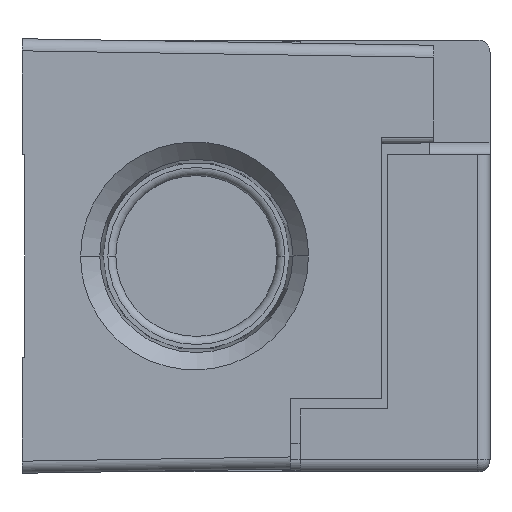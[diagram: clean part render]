
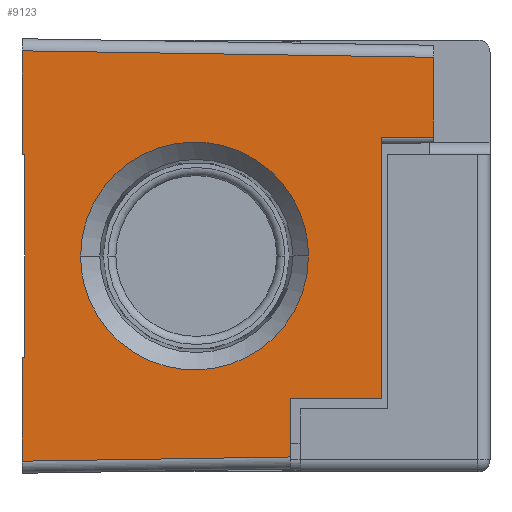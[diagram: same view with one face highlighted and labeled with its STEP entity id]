
A CAD part, front view. The second image highlights one B-rep face of the part: STEP entity #9123.
In plain terms, the highlighted planar face has unit normal (0.016, -1, 0).
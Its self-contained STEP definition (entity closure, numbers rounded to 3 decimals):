
#1598=CARTESIAN_POINT('',(4.089,-80.983,-19.032));
#1608=DIRECTION('',(0.,0.,1.));
#1609=VECTOR('',#1608,5.57);
#1610=CARTESIAN_POINT('',(4.089,-80.983,-19.032));
#1611=LINE('',#1610,#1609);
#2086=DIRECTION('',(0.,0.,1.));
#2087=VECTOR('',#2086,24.714);
#2088=CARTESIAN_POINT('',(12.725,-80.847,-13.462));
#2089=LINE('',#2088,#2087);
#2094=DIRECTION('',(1.,0.016,0.));
#2095=VECTOR('',#2094,8.637);
#2096=CARTESIAN_POINT('',(4.089,-80.983,-13.462));
#2097=LINE('',#2096,#2095);
#2098=DIRECTION('',(-1.,-0.016,0.016));
#2099=VECTOR('',#2098,38.999);
#2100=CARTESIAN_POINT('',(17.678,-80.769,18.819));
#2101=LINE('',#2100,#2099);
#2102=DIRECTION('',(1.,0.016,0.016));
#2103=VECTOR('',#2102,25.406);
#2104=CARTESIAN_POINT('',(-21.311,-81.382,-19.431));
#2105=LINE('',#2104,#2103);
#2106=DIRECTION('',(1.,0.016,0.));
#2107=VECTOR('',#2106,0.254);
#2108=CARTESIAN_POINT('',(-21.311,-81.382,-9.601));
#2109=LINE('',#2108,#2107);
#2110=DIRECTION('',(0.,0.,1.));
#2111=VECTOR('',#2110,19.202);
#2112=CARTESIAN_POINT('',(-21.057,-81.378,-9.601));
#2113=LINE('',#2112,#2111);
#2114=DIRECTION('',(1.,0.016,0.));
#2115=VECTOR('',#2114,0.254);
#2116=CARTESIAN_POINT('',(-21.311,-81.382,9.601));
#2117=LINE('',#2116,#2115);
#2118=CARTESIAN_POINT('',(5.822,-80.955,
0.));
#2119=CARTESIAN_POINT('',(5.822,-80.955,
-0.636));
#2120=CARTESIAN_POINT('',(5.709,-80.957,
-1.955));
#2121=CARTESIAN_POINT('',(5.137,-80.966,
-3.984));
#2122=CARTESIAN_POINT('',(4.131,-80.982,
-5.94));
#2123=CARTESIAN_POINT('',(2.716,-81.004,
-7.685));
#2124=CARTESIAN_POINT('',(0.97,-81.032,
-9.1));
#2125=CARTESIAN_POINT('',(-0.659,-81.057,
-9.938));
#2126=CARTESIAN_POINT('',(-2.,-81.078,
-10.392));
#2127=CARTESIAN_POINT('',(-3.008,-81.094,
-10.628));
#2128=CARTESIAN_POINT('',(-3.838,-81.107,
-10.74));
#2129=CARTESIAN_POINT('',(-4.491,-81.117,
-10.784));
#2130=CARTESIAN_POINT('',(-4.97,-81.125,
-10.794));
#2131=CARTESIAN_POINT('',(-5.45,-81.132,
-10.784));
#2132=CARTESIAN_POINT('',(-6.102,-81.143,
-10.74));
#2133=CARTESIAN_POINT('',(-6.932,-81.156,
-10.628));
#2134=CARTESIAN_POINT('',(-7.94,-81.172,
-10.392));
#2135=CARTESIAN_POINT('',(-9.281,-81.193,
-9.938));
#2136=CARTESIAN_POINT('',(-10.911,-81.218,
-9.1));
#2137=CARTESIAN_POINT('',(-12.657,-81.246,
-7.685));
#2138=CARTESIAN_POINT('',(-14.072,-81.268,
-5.94));
#2139=CARTESIAN_POINT('',(-15.077,-81.284,
-3.984));
#2140=CARTESIAN_POINT('',(-15.649,-81.293,
-1.955));
#2141=CARTESIAN_POINT('',(-15.762,-81.294,
-0.636));
#2142=CARTESIAN_POINT('',(-15.762,-81.294,
0.));
#2144=CARTESIAN_POINT('',(-15.762,-81.294,
0.));
#2145=CARTESIAN_POINT('',(-15.762,-81.294,
0.636));
#2146=CARTESIAN_POINT('',(-15.649,-81.293,
1.955));
#2147=CARTESIAN_POINT('',(-15.077,-81.284,
3.984));
#2148=CARTESIAN_POINT('',(-14.072,-81.268,
5.94));
#2149=CARTESIAN_POINT('',(-12.657,-81.246,
7.685));
#2150=CARTESIAN_POINT('',(-10.911,-81.218,
9.1));
#2151=CARTESIAN_POINT('',(-9.281,-81.193,
9.938));
#2152=CARTESIAN_POINT('',(-7.94,-81.172,
10.392));
#2153=CARTESIAN_POINT('',(-6.932,-81.156,
10.628));
#2154=CARTESIAN_POINT('',(-6.102,-81.143,
10.74));
#2155=CARTESIAN_POINT('',(-5.45,-81.132,
10.784));
#2156=CARTESIAN_POINT('',(-4.97,-81.125,
10.794));
#2157=CARTESIAN_POINT('',(-4.491,-81.117,
10.784));
#2158=CARTESIAN_POINT('',(-3.838,-81.107,
10.74));
#2159=CARTESIAN_POINT('',(-3.008,-81.094,
10.628));
#2160=CARTESIAN_POINT('',(-2.,-81.078,
10.392));
#2161=CARTESIAN_POINT('',(-0.659,-81.057,
9.938));
#2162=CARTESIAN_POINT('',(0.97,-81.032,
9.1));
#2163=CARTESIAN_POINT('',(2.716,-81.004,7.685));
#2164=CARTESIAN_POINT('',(4.131,-80.982,5.94));
#2165=CARTESIAN_POINT('',(5.137,-80.966,3.984));
#2166=CARTESIAN_POINT('',(5.709,-80.957,1.955));
#2167=CARTESIAN_POINT('',(5.822,-80.955,
0.636));
#2168=CARTESIAN_POINT('',(5.822,-80.955,
0.));
#2170=CARTESIAN_POINT('',(-21.311,-81.382,19.431));
#2180=DIRECTION('',(0.,0.,1.));
#2181=VECTOR('',#2180,9.83);
#2182=CARTESIAN_POINT('',(-21.311,-81.382,9.601));
#2183=LINE('',#2182,#2181);
#2318=CARTESIAN_POINT('',(17.678,-80.769,18.819));
#2347=DIRECTION('',(0.,0.,-1.));
#2348=VECTOR('',#2347,7.566);
#2349=CARTESIAN_POINT('',(17.678,-80.769,18.819));
#2350=LINE('',#2349,#2348);
#2378=DIRECTION('',(1.,0.016,0.));
#2379=VECTOR('',#2378,4.954);
#2380=CARTESIAN_POINT('',(12.725,-80.847,11.252));
#2381=LINE('',#2380,#2379);
#2417=CARTESIAN_POINT('',(-21.311,-81.382,-19.431));
#2436=DIRECTION('',(0.,0.,1.));
#2437=VECTOR('',#2436,9.83);
#2438=CARTESIAN_POINT('',(-21.311,-81.382,-19.431));
#2439=LINE('',#2438,#2437);
#5797=CARTESIAN_POINT('',(5.822,-80.955,
0.));
#5798=VERTEX_POINT('',#5797);
#5799=CARTESIAN_POINT('',(-15.762,-81.294,0.));
#5800=VERTEX_POINT('',#5799);
#5802=CARTESIAN_POINT('',(12.725,-80.847,11.252));
#5804=VERTEX_POINT('',#5802);
#5811=CARTESIAN_POINT('',(17.678,-80.769,11.252));
#5812=VERTEX_POINT('',#5811);
#5813=CARTESIAN_POINT('',(12.725,-80.847,-13.462));
#5814=VERTEX_POINT('',#5813);
#5821=CARTESIAN_POINT('',(4.089,-80.983,-13.462));
#5822=VERTEX_POINT('',#5821);
#5825=VERTEX_POINT('',#2170);
#5829=VERTEX_POINT('',#2318);
#5830=VERTEX_POINT('',#1598);
#5834=VERTEX_POINT('',#2417);
#5887=CARTESIAN_POINT('',(-21.311,-81.382,-9.601));
#5888=VERTEX_POINT('',#5887);
#5889=CARTESIAN_POINT('',(-21.311,-81.382,9.601));
#5891=VERTEX_POINT('',#5889);
#5909=CARTESIAN_POINT('',(-21.057,-81.378,-9.601));
#5910=CARTESIAN_POINT('',(-21.057,-81.378,9.601));
#5911=VERTEX_POINT('',#5909);
#5912=VERTEX_POINT('',#5910);
#9090=CARTESIAN_POINT('',(-21.311,-81.382,-47.102));
#9091=DIRECTION('',(0.016,-1.,0.));
#9092=DIRECTION('',(0.,0.,1.));
#9093=AXIS2_PLACEMENT_3D('',#9090,#9091,#9092);
#9094=PLANE('',#9093);
#9096=ORIENTED_EDGE('',*,*,#9095,.F.);
#9098=ORIENTED_EDGE('',*,*,#9097,.T.);
#9100=ORIENTED_EDGE('',*,*,#9099,.F.);
#9101=ORIENTED_EDGE('',*,*,#9069,.F.);
#9102=ORIENTED_EDGE('',*,*,#9084,.F.);
#9103=ORIENTED_EDGE('',*,*,#8423,.F.);
#9105=ORIENTED_EDGE('',*,*,#9104,.F.);
#9107=ORIENTED_EDGE('',*,*,#9106,.T.);
#9109=ORIENTED_EDGE('',*,*,#9108,.T.);
#9110=ORIENTED_EDGE('',*,*,#8843,.T.);
#9112=ORIENTED_EDGE('',*,*,#9111,.F.);
#9114=ORIENTED_EDGE('',*,*,#9113,.T.);
#9115=EDGE_LOOP('',(#9096,#9098,#9100,#9101,#9102,#9103,#9105,#9107,#9109,#9110,
#9112,#9114));
#9116=FACE_OUTER_BOUND('',#9115,.F.);
#9118=ORIENTED_EDGE('',*,*,#9117,.F.);
#9120=ORIENTED_EDGE('',*,*,#9119,.F.);
#9121=EDGE_LOOP('',(#9118,#9120));
#9122=FACE_BOUND('',#9121,.F.);
#9123=ADVANCED_FACE('',(#9116,#9122),#9094,.T.);
#2143=B_SPLINE_CURVE_WITH_KNOTS('',3,(#2118,#2119,#2120,#2121,#2122,#2123,#2124,
#2125,#2126,#2127,#2128,#2129,#2130,#2131,#2132,#2133,#2134,#2135,#2136,#2137,
#2138,#2139,#2140,#2141,#2142),.UNSPECIFIED.,.F.,.F.,(4,1,1,1,1,1,1,1,1,1,1,1,1,
1,1,1,1,1,1,1,1,1,4),(0.,0.063,0.125,0.188,0.25,0.313,0.375,
0.406,0.438,0.469,0.484,0.5,0.516,0.531,0.563,
0.594,0.625,0.688,0.75,0.813,0.875,0.938,1.),
.UNSPECIFIED.);
#2169=B_SPLINE_CURVE_WITH_KNOTS('',3,(#2144,#2145,#2146,#2147,#2148,#2149,#2150,
#2151,#2152,#2153,#2154,#2155,#2156,#2157,#2158,#2159,#2160,#2161,#2162,#2163,
#2164,#2165,#2166,#2167,#2168),.UNSPECIFIED.,.F.,.F.,(4,1,1,1,1,1,1,1,1,1,1,1,1,
1,1,1,1,1,1,1,1,1,4),(0.,0.063,0.125,0.188,0.25,0.313,0.375,
0.406,0.438,0.469,0.484,0.5,0.516,0.531,0.563,
0.594,0.625,0.688,0.75,0.813,0.875,0.938,1.),
.UNSPECIFIED.);
#8423=EDGE_CURVE('',#5830,#5822,#1611,.T.);
#8843=EDGE_CURVE('',#5911,#5912,#2113,.T.);
#9069=EDGE_CURVE('',#5814,#5804,#2089,.T.);
#9084=EDGE_CURVE('',#5822,#5814,#2097,.T.);
#9095=EDGE_CURVE('',#5829,#5825,#2101,.T.);
#9097=EDGE_CURVE('',#5829,#5812,#2350,.T.);
#9099=EDGE_CURVE('',#5804,#5812,#2381,.T.);
#9104=EDGE_CURVE('',#5834,#5830,#2105,.T.);
#9106=EDGE_CURVE('',#5834,#5888,#2439,.T.);
#9108=EDGE_CURVE('',#5888,#5911,#2109,.T.);
#9111=EDGE_CURVE('',#5891,#5912,#2117,.T.);
#9113=EDGE_CURVE('',#5891,#5825,#2183,.T.);
#9117=EDGE_CURVE('',#5798,#5800,#2143,.T.);
#9119=EDGE_CURVE('',#5800,#5798,#2169,.T.);
